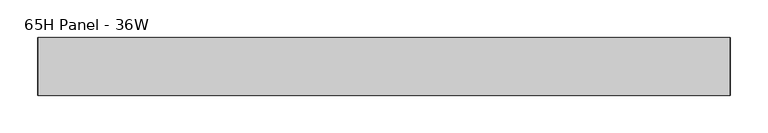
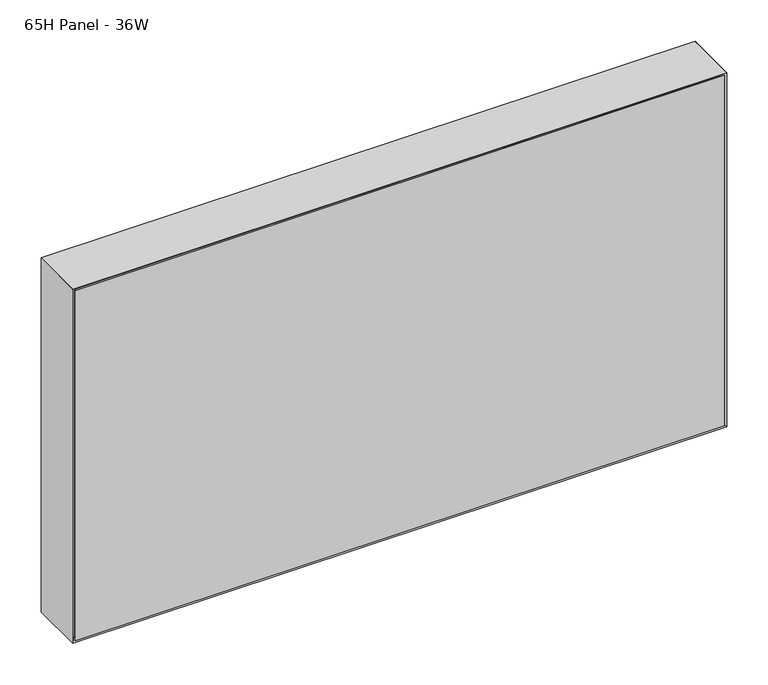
"""IFC4 building model written with IfcOpenShell, lengths in millimetres: furniture geometry, Steelcase - Montage - Frame - 20H - Enhanced Standard - Single Stack-On : 65H Panel - 36W."""

from ifc_helpers import new_model, si_unit, frame, origin, place, context, project, spatial, polyline, outline, extrude, faceted_brep, source, transform, mapped, element, save


def furniture_65h_panel_36w_6930db79(model_context):
    return source(origin(), model_context, "Body", "SolidModel", [
        faceted_brep([(904.8750027, 31.7500194, 2174.8749516), (9.5250028, 31.7500194, 2174.8749516), (9.5250028, 31.7500194, 1670.05), (904.8750027, 31.7500194, 1670.05), (911.225, 38.1000194, 2181.2249516), (911.225, 38.1000194, 1663.7), (3.175, 38.1000194, 1663.7), (3.175, 38.1000194, 2181.2249516)], [[[0, 1, 2, 3]], [[4, 5, 6, 7]], [[4, 0, 3, 5]], [[5, 3, 2, 6]], [[6, 2, 1, 7]], [[7, 1, 0, 4]]]),
        faceted_brep([(904.8750027, -31.7500194, 2174.8749516), (904.8750027, -31.7500194, 1670.05), (9.5250028, -31.7500194, 1670.05), (9.5250028, -31.7500194, 2174.8749516), (911.225, -38.1000194, 2181.2249516), (3.175, -38.1000194, 2181.2249516), (3.175, -38.1000194, 1663.7), (911.225, -38.1000194, 1663.7)], [[[0, 1, 2, 3]], [[4, 5, 6, 7]], [[4, 7, 1, 0]], [[7, 6, 2, 1]], [[6, 5, 3, 2]], [[5, 4, 0, 3]]]),
        faceted_brep([(914.4, -38.1000015, 1660.525), (914.4, 38.1000015, 1660.525), (914.4, 38.1000015, 2184.3999516), (914.4, -38.1000106, 2184.3999515), (0.0, 38.1000015, 1660.525), (0.0, -38.1000015, 1660.525), (0.0, -38.1000015, 2184.3999516), (0.0, 38.1000015, 2184.3999516), (6.3500484, 31.749953, 1666.8750484), (908.0499879, 31.749953, 1666.8750484), (6.35, -31.749953, 1666.8750484), (908.0499879, -31.749953, 1666.8750484), (6.3500165, 31.749985, 2178.049935), (6.3500006, -31.7500009, 2178.0499031), (908.0499879, -31.7499979, 2178.0499031), (908.0499879, 31.7499889, 2178.0499394)], [[[0, 1, 2, 3]], [[4, 5, 6, 7]], [[1, 0, 5, 4]], [[1, 4, 8, 9]], [[9, 8, 10, 11]], [[5, 0, 11, 10]], [[4, 7, 12, 8]], [[6, 5, 10, 13]], [[10, 8, 12, 13]], [[9, 11, 14, 15]], [[0, 3, 14, 11]], [[2, 1, 9, 15]], [[3, 2, 15, 14]], [[7, 6, 13, 12]]]),
        faceted_brep([(914.4, -38.1000015, 2184.3999516), (0.0, -38.1000015, 2184.3999516), (6.3500484, -31.749953, 2178.0499031), (908.0499516, -31.749953, 2178.0499031), (6.3500484, 31.749953, 2178.0499031), (908.0499516, 31.749953, 2178.0499031), (0.0, 38.1000015, 2184.3999516), (914.4, 38.1000015, 2184.3999516)], [[[0, 1, 2, 3]], [[3, 2, 4, 5]], [[6, 7, 5, 4]], [[1, 0, 7, 6]], [[2, 1, 6, 4]], [[0, 3, 5, 7]]]),
        extrude(outline(polyline([(908.0499879, 31.7500016), (908.0499879, -31.7499985), (6.35, -31.7499985), (6.35, 31.7500016), (908.0499879, 31.7500016)])), frame((0.0, 0.0, 1666.8702145), z_axis=(0.0, 0.0, 1.0), x_axis=(1.0, 0.0, 0.0)), (0.0, 0.0, 1.0), 511.1796886),
    ])


if __name__ == "__main__":
    model = new_model("IFC4")
    model_context = context("Model", 3, world=origin())
    ifc_project = project(units=[si_unit("LENGTHUNIT", "METRE", prefix="MILLI")], contexts=[model_context])
    site = spatial("IfcSite", under=ifc_project)
    building = spatial("IfcBuilding", under=site)
    placement = place(None, origin())
    furniture_65h_panel_36w_shape = furniture_65h_panel_36w_6930db79(model_context)
    element("IfcFurniture", 1, ObjectType="Steelcase - Montage - Frame - 20H - Enhanced Standard - Single Stack-On : 65H Panel - 36W", at=placement, inside=building, context=model_context, shape_type="MappedRepresentation", body=[
        mapped(furniture_65h_panel_36w_shape, transform((0.0, 0.0, 0.0), x_axis=(1.0, 0.0, 0.0), y_axis=(0.0, 1.0, 0.0), z_axis=(0.0, 0.0, 1.0))),
    ])
    save(model, "model.ifc")
